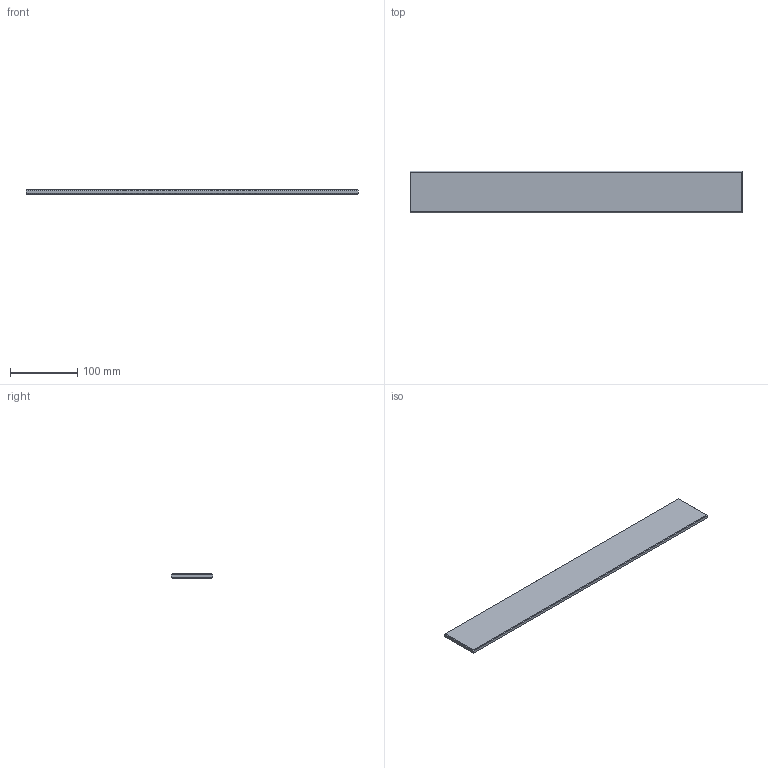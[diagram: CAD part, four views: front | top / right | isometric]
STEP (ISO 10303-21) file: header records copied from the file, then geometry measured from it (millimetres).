
FILE_DESCRIPTION((''),'2;1');
FILE_NAME('238467-HI','2023-01-30T08:15:53',('1ke04'),('Kesseboehmer'),'CREO PARAMETRIC BY PTC INC, 2020414','CREO PARAMETRIC BY PTC INC, 2020414','');
FILE_SCHEMA(('AUTOMOTIVE_DESIGN { 1 0 10303 214 1 1 1 1 }'));
Length unit declared in the file: millimetre
Products named in the file (1): 238467-HI
Bounding box: 493 x 61 x 6 mm (x, y, z)
Volume: 179332.7 mm3; surface area: 65492.6 mm2
Topology: 1 solids, 1 shells, 14 faces, 28 edges, 16 vertices
Faces by surface type: plane 14
Entity records: 966 total; most frequent: COLOUR_RGB 194, DIRECTION 81, CARTESIAN_POINT 76, ORIENTED_EDGE 56, PROPERTY_DEFINITION 39, REPRESENTATION 38, PROPERTY_DEFINITION_REPRESENTATION 38, PRESENTATION_STYLE_ASSIGNMENT 32
